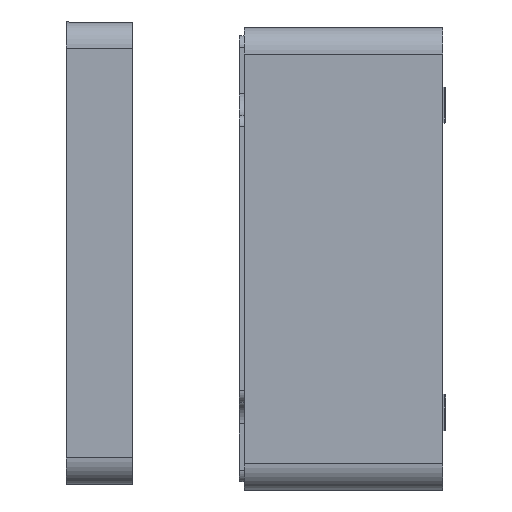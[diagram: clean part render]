
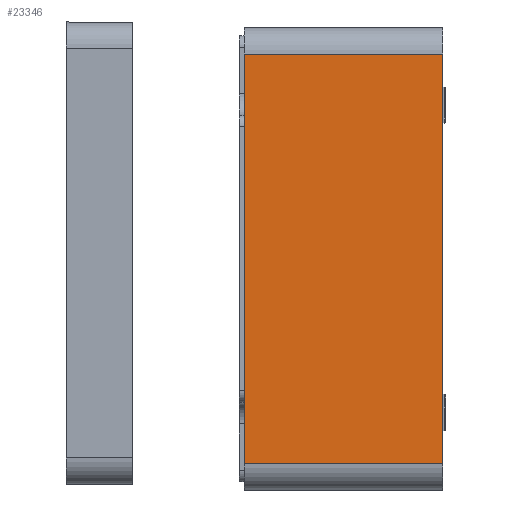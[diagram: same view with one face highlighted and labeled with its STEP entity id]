
A CAD part, left-side view. The second image highlights one B-rep face of the part: STEP entity #23346.
In plain terms, the highlighted planar face has unit normal (-1, 0, 0).
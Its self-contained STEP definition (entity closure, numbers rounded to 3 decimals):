
#289 = VERTEX_POINT ( 'NONE', #18859 ) ;
#1498 = CARTESIAN_POINT ( 'NONE',  ( -110., 60., -62. ) ) ;
#1559 = CARTESIAN_POINT ( 'NONE',  ( -110., 60., -62. ) ) ;
#2766 = EDGE_CURVE ( 'NONE', #289, #16628, #3655, .T. ) ;
#2952 = EDGE_CURVE ( 'NONE', #17703, #7092, #14924, .T. ) ;
#3546 = VECTOR ( 'NONE', #4271, 1000. ) ;
#3629 = LINE ( 'NONE', #1559, #24253 ) ;
#3655 = LINE ( 'NONE', #20773, #16077 ) ;
#4271 = DIRECTION ( 'NONE',  ( 0., 0., 1. ) ) ;
#6793 = LINE ( 'NONE', #17463, #15386 ) ;
#7092 = VERTEX_POINT ( 'NONE', #17399 ) ;
#7306 = EDGE_CURVE ( 'NONE', #17703, #289, #3629, .T. ) ;
#7989 = DIRECTION ( 'NONE',  ( 0., 0., 1. ) ) ;
#8382 = CARTESIAN_POINT ( 'NONE',  ( -110., 60., -70. ) ) ;
#9838 = EDGE_CURVE ( 'NONE', #16628, #7092, #6793, .T. ) ;
#10214 = ORIENTED_EDGE ( 'NONE', *, *, #2766, .T. ) ;
#10499 = PLANE ( 'NONE',  #25948 ) ;
#10994 = DIRECTION ( 'NONE',  ( 0., 1., 0. ) ) ;
#12486 = ORIENTED_EDGE ( 'NONE', *, *, #2952, .F. ) ;
#12866 = DIRECTION ( 'NONE',  ( 1., 0., 0. ) ) ;
#13000 = FACE_OUTER_BOUND ( 'NONE', #15983, .T. ) ;
#14924 = LINE ( 'NONE', #23487, #3546 ) ;
#15094 = CARTESIAN_POINT ( 'NONE',  ( -110., 0., 62. ) ) ;
#15386 = VECTOR ( 'NONE', #10994, 1000. ) ;
#15983 = EDGE_LOOP ( 'NONE', ( #10214, #17170, #12486, #21416 ) ) ;
#16077 = VECTOR ( 'NONE', #7989, 1000. ) ;
#16628 = VERTEX_POINT ( 'NONE', #15094 ) ;
#17170 = ORIENTED_EDGE ( 'NONE', *, *, #9838, .T. ) ;
#17399 = CARTESIAN_POINT ( 'NONE',  ( -110., 60., 62. ) ) ;
#17463 = CARTESIAN_POINT ( 'NONE',  ( -110., 60., 62. ) ) ;
#17703 = VERTEX_POINT ( 'NONE', #1498 ) ;
#18859 = CARTESIAN_POINT ( 'NONE',  ( -110., 0., -62. ) ) ;
#20773 = CARTESIAN_POINT ( 'NONE',  ( -110., 0., -70. ) ) ;
#20891 = DIRECTION ( 'NONE',  ( 0., -1., 0. ) ) ;
#21416 = ORIENTED_EDGE ( 'NONE', *, *, #7306, .T. ) ;
#23346 = ADVANCED_FACE ( 'NONE', ( #13000 ), #10499, .F. ) ;
#23487 = CARTESIAN_POINT ( 'NONE',  ( -110., 60., -70. ) ) ;
#24253 = VECTOR ( 'NONE', #20891, 1000. ) ;
#25912 = DIRECTION ( 'NONE',  ( 0., 0., -1. ) ) ;
#25948 = AXIS2_PLACEMENT_3D ( 'NONE', #8382, #12866, #25912 ) ;
